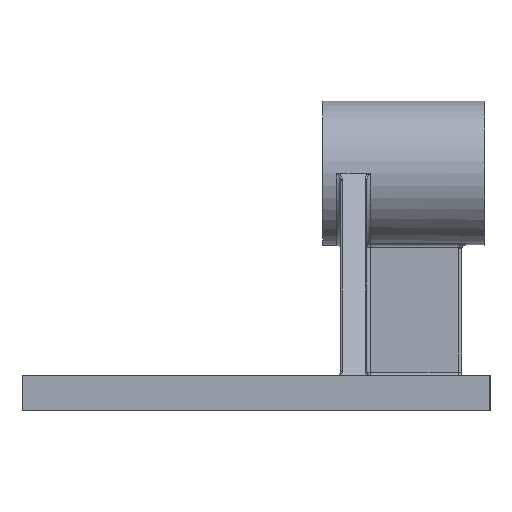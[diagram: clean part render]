
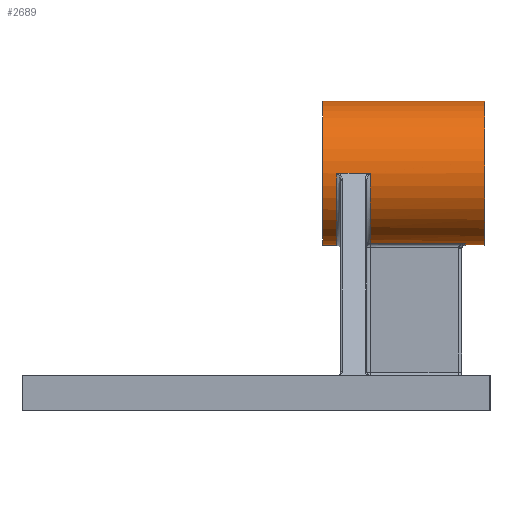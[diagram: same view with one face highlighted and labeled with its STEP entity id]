
A CAD part, left-side view. The second image highlights one B-rep face of the part: STEP entity #2689.
In plain terms, the highlighted cylindrical face has radius 41 mm (diameter 82 mm), a full revolution.
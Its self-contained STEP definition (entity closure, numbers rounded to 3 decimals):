
#165=CARTESIAN_POINT('',(-41.,-47.037,135.));
#166=VERTEX_POINT('',#165);
#167=CARTESIAN_POINT('',(-40.999,-46.,134.679));
#168=VERTEX_POINT('',#167);
#169=CARTESIAN_POINT('',(-40.999,-46.,134.679));
#170=CARTESIAN_POINT('',(-40.999,-46.001,134.68));
#171=CARTESIAN_POINT('',(-40.999,-46.003,134.681));
#172=CARTESIAN_POINT('',(-40.999,-46.109,134.756));
#173=CARTESIAN_POINT('',(-41.,-46.22,134.817));
#174=CARTESIAN_POINT('',(-41.,-46.464,134.918));
#175=CARTESIAN_POINT('',(-41.,-46.595,134.954));
#176=CARTESIAN_POINT('',(-41.,-46.831,134.992));
#177=CARTESIAN_POINT('',(-41.,-46.934,135.0));
#178=CARTESIAN_POINT('',(-41.,-47.037,135.0));
#179=B_SPLINE_CURVE_WITH_KNOTS('',3,(#169,#170,#171,#172,#173,#174,#175,#176,#177,#178),.UNSPECIFIED.,.F.,.U.,(4,2,2,2,4),(0.,0.0,0.039,0.079,0.11),.UNSPECIFIED.);
#180=EDGE_CURVE('',#166,#168,#179,.F.);
#449=CARTESIAN_POINT('',(40.999,-46.0,134.679));
#450=VERTEX_POINT('',#449);
#451=CARTESIAN_POINT('',(0.,-46.,135.0));
#452=DIRECTION('',(0.0,-1.0,0.0));
#453=DIRECTION('',(0.0,0.0,-1.0));
#454=AXIS2_PLACEMENT_3D('',#451,#452,#453);
#455=CIRCLE('',#454,41.);
#456=EDGE_CURVE('',#168,#450,#455,.T.);
#616=CARTESIAN_POINT('',(41.,-63.963,135.));
#617=VERTEX_POINT('',#616);
#618=CARTESIAN_POINT('',(40.999,-65.0,134.679));
#619=VERTEX_POINT('',#618);
#620=CARTESIAN_POINT('',(40.999,-65.,134.679));
#621=CARTESIAN_POINT('',(40.999,-64.999,134.68));
#622=CARTESIAN_POINT('',(40.999,-64.997,134.681));
#623=CARTESIAN_POINT('',(40.999,-64.891,134.756));
#624=CARTESIAN_POINT('',(41.,-64.78,134.817));
#625=CARTESIAN_POINT('',(41.,-64.536,134.918));
#626=CARTESIAN_POINT('',(41.,-64.405,134.954));
#627=CARTESIAN_POINT('',(41.,-64.169,134.992));
#628=CARTESIAN_POINT('',(41.,-64.066,135.0));
#629=CARTESIAN_POINT('',(41.,-63.963,135.0));
#630=B_SPLINE_CURVE_WITH_KNOTS('',3,(#620,#621,#622,#623,#624,#625,#626,#627,#628,#629),.UNSPECIFIED.,.F.,.U.,(4,2,2,2,4),(0.,0.0,0.039,0.079,0.11),.UNSPECIFIED.);
#631=EDGE_CURVE('',#617,#619,#630,.F.);
#911=CARTESIAN_POINT('',(41.,-47.037,135.));
#912=VERTEX_POINT('',#911);
#913=CARTESIAN_POINT('',(41.,-47.037,135.));
#914=CARTESIAN_POINT('',(41.,-46.995,135.));
#915=CARTESIAN_POINT('',(41.,-46.954,134.999));
#916=CARTESIAN_POINT('',(41.,-46.742,134.985));
#917=CARTESIAN_POINT('',(41.,-46.573,134.952));
#918=CARTESIAN_POINT('',(41.,-46.267,134.842));
#919=CARTESIAN_POINT('',(40.999,-46.131,134.772));
#920=CARTESIAN_POINT('',(40.999,-46.003,134.681));
#921=CARTESIAN_POINT('',(40.999,-46.001,134.68));
#922=CARTESIAN_POINT('',(40.999,-46.,134.679));
#923=B_SPLINE_CURVE_WITH_KNOTS('',3,(#913,#914,#915,#916,#917,#918,#919,#920,#921,#922),.UNSPECIFIED.,.F.,.U.,(4,2,2,2,4),(0.0,0.012,0.064,0.11,0.111),.UNSPECIFIED.);
#924=EDGE_CURVE('',#450,#912,#923,.F.);
#1074=CARTESIAN_POINT('',(41.,-63.963,135.));
#1075=DIRECTION('',(0.0,1.0,0.0));
#1076=VECTOR('',#1075,16.926);
#1077=LINE('',#1074,#1076);
#1078=EDGE_CURVE('',#617,#912,#1077,.T.);
#1306=CARTESIAN_POINT('',(-40.999,-65.,134.679));
#1307=VERTEX_POINT('',#1306);
#1308=CARTESIAN_POINT('',(-41.,-63.963,135.));
#1309=VERTEX_POINT('',#1308);
#1310=CARTESIAN_POINT('',(-41.,-63.963,135.0));
#1311=CARTESIAN_POINT('',(-41.,-64.005,135.0));
#1312=CARTESIAN_POINT('',(-41.,-64.046,134.999));
#1313=CARTESIAN_POINT('',(-41.,-64.258,134.985));
#1314=CARTESIAN_POINT('',(-41.,-64.427,134.952));
#1315=CARTESIAN_POINT('',(-41.,-64.733,134.842));
#1316=CARTESIAN_POINT('',(-40.999,-64.869,134.772));
#1317=CARTESIAN_POINT('',(-40.999,-64.997,134.681));
#1318=CARTESIAN_POINT('',(-40.999,-64.999,134.68));
#1319=CARTESIAN_POINT('',(-40.999,-65.,134.679));
#1320=B_SPLINE_CURVE_WITH_KNOTS('',3,(#1310,#1311,#1312,#1313,#1314,#1315,#1316,#1317,#1318,#1319),.UNSPECIFIED.,.F.,.U.,(4,2,2,2,4),(0.0,0.012,0.064,0.11,0.111),.UNSPECIFIED.);
#1321=EDGE_CURVE('',#1307,#1309,#1320,.F.);
#1392=CARTESIAN_POINT('',(-9.058,-65.,95.013));
#1393=VERTEX_POINT('',#1392);
#1401=CARTESIAN_POINT('',(0.,-65.,135.0));
#1402=DIRECTION('',(0.,1.,0.));
#1403=DIRECTION('',(-0.769,0.,-0.639));
#1404=AXIS2_PLACEMENT_3D('',#1401,#1402,#1403);
#1405=CIRCLE('',#1404,41.);
#1406=EDGE_CURVE('',#1393,#1307,#1405,.T.);
#1580=CARTESIAN_POINT('',(9.058,-119.,95.013));
#1581=VERTEX_POINT('',#1580);
#1799=CARTESIAN_POINT('',(-9.058,-119.,95.013));
#1800=VERTEX_POINT('',#1799);
#1801=CARTESIAN_POINT('',(0.,-119.,135.0));
#1802=DIRECTION('',(0.0,1.0,0.0));
#1803=DIRECTION('',(0.0,0.0,-1.0));
#1804=AXIS2_PLACEMENT_3D('',#1801,#1802,#1803);
#1805=CIRCLE('',#1804,41.);
#1806=EDGE_CURVE('',#1581,#1800,#1805,.T.);
#1852=CARTESIAN_POINT('',(9.058,-65.,95.013));
#1853=VERTEX_POINT('',#1852);
#1861=CARTESIAN_POINT('',(9.058,-65.,95.013));
#1862=DIRECTION('',(0.0,-1.0,0.0));
#1863=VECTOR('',#1862,54.0);
#1864=LINE('',#1861,#1863);
#1865=EDGE_CURVE('',#1853,#1581,#1864,.T.);
#2525=CARTESIAN_POINT('',(-9.058,-119.,95.013));
#2526=DIRECTION('',(0.0,1.0,0.0));
#2527=VECTOR('',#2526,54.0);
#2528=LINE('',#2525,#2527);
#2529=EDGE_CURVE('',#1800,#1393,#2528,.T.);
#2588=CARTESIAN_POINT('',(0.,-65.,135.0));
#2589=DIRECTION('',(0.,1.,0.));
#2590=DIRECTION('',(0.769,0.,-0.639));
#2591=AXIS2_PLACEMENT_3D('',#2588,#2589,#2590);
#2592=CIRCLE('',#2591,41.);
#2593=EDGE_CURVE('',#619,#1853,#2592,.T.);
#2643=CARTESIAN_POINT('',(0.,-130.0,135.0));
#2644=DIRECTION('',(0.,1.0,0.0));
#2645=DIRECTION('',(-1.0,0.0,0.0));
#2646=AXIS2_PLACEMENT_3D('',#2643,#2644,#2645);
#2647=CYLINDRICAL_SURFACE('',#2646,41.);
#2648=CARTESIAN_POINT('',(41.,-130.,135.0));
#2649=VERTEX_POINT('',#2648);
#2650=CARTESIAN_POINT('',(0.,-130.0,135.0));
#2651=DIRECTION('',(0.0,1.0,0.0));
#2652=DIRECTION('',(-1.0,0.0,0.0));
#2653=AXIS2_PLACEMENT_3D('',#2650,#2651,#2652);
#2654=CIRCLE('',#2653,41.);
#2655=EDGE_CURVE('',#2649,#2649,#2654,.T.);
#2656=ORIENTED_EDGE('',*,*,#2655,.T.);
#2657=EDGE_LOOP('',(#2656));
#2658=FACE_OUTER_BOUND('',#2657,.T.);
#2659=CARTESIAN_POINT('',(-41.,-47.037,135.));
#2660=DIRECTION('',(0.0,-1.0,0.0));
#2661=VECTOR('',#2660,16.926);
#2662=LINE('',#2659,#2661);
#2663=EDGE_CURVE('',#166,#1309,#2662,.T.);
#2664=ORIENTED_EDGE('',*,*,#2663,.T.);
#2665=ORIENTED_EDGE('',*,*,#1321,.F.);
#2666=ORIENTED_EDGE('',*,*,#1406,.F.);
#2667=ORIENTED_EDGE('',*,*,#2529,.F.);
#2668=ORIENTED_EDGE('',*,*,#1806,.F.);
#2669=ORIENTED_EDGE('',*,*,#1865,.F.);
#2670=ORIENTED_EDGE('',*,*,#2593,.F.);
#2671=ORIENTED_EDGE('',*,*,#631,.F.);
#2672=ORIENTED_EDGE('',*,*,#1078,.T.);
#2673=ORIENTED_EDGE('',*,*,#924,.F.);
#2674=ORIENTED_EDGE('',*,*,#456,.F.);
#2675=ORIENTED_EDGE('',*,*,#180,.F.);
#2676=EDGE_LOOP('',(#2664,#2665,#2666,#2667,#2668,#2669,#2670,#2671,#2672,#2673,#2674,#2675));
#2677=FACE_BOUND('',#2676,.T.);
#2678=CARTESIAN_POINT('',(41.,-38.,135.0));
#2679=VERTEX_POINT('',#2678);
#2680=CARTESIAN_POINT('',(0.,-38.,135.0));
#2681=DIRECTION('',(0.0,-1.0,0.0));
#2682=DIRECTION('',(-1.0,0.0,0.0));
#2683=AXIS2_PLACEMENT_3D('',#2680,#2681,#2682);
#2684=CIRCLE('',#2683,41.);
#2685=EDGE_CURVE('',#2679,#2679,#2684,.T.);
#2686=ORIENTED_EDGE('',*,*,#2685,.T.);
#2687=EDGE_LOOP('',(#2686));
#2688=FACE_BOUND('',#2687,.T.);
#2689=ADVANCED_FACE('',(#2658,#2677,#2688),#2647,.T.);
